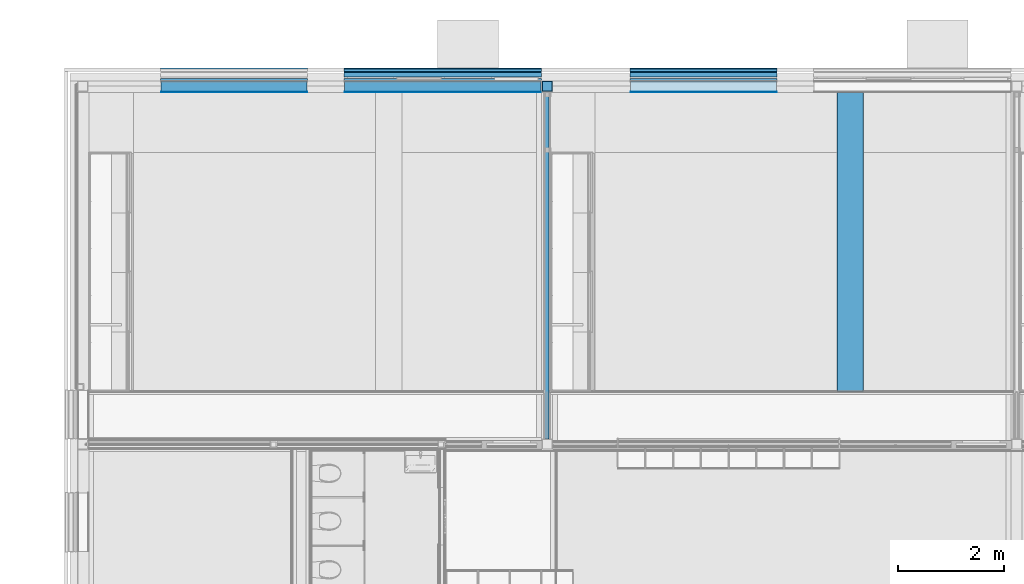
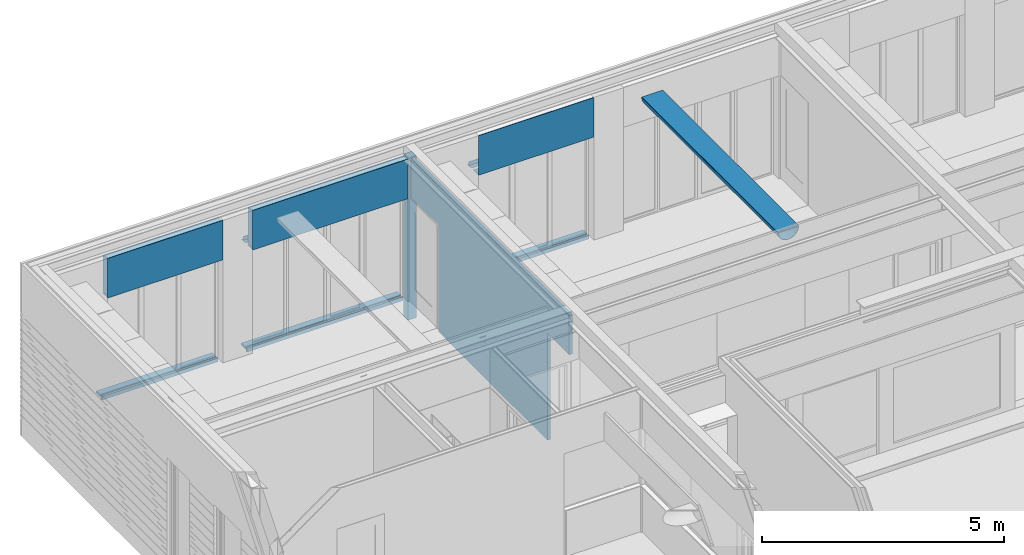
# One storey, part 83 of 165: 23 building element parts, 2 openings, 11 elements without a shape of their own.
"""IFC2X3 building model written with IfcOpenShell, lengths in millimetres."""

import ifcopenshell
import ifcopenshell.guid

model = None  # the IFC model being written
_history = None  # IfcOwnerHistory: only IFC2X3 demands one
_inside = {}  # id of a spatial element -> (the spatial element, [elements in it])
_under = {}  # id of a project, library or spatial element -> (it, [spatial elements below it])
_declared = {}  # id of a project -> (the project, [libraries it declares])
_typed = {}  # id of a type object -> (the type object, [elements of that type])
_made_of = {}  # id of a material, layer set ... -> (it, [elements and type objects made of it])


def new_model(schema):
    """Start an empty IFC model of exactly this schema.

    Asked for "IFC4X3", IfcOpenShell would pick the latest addendum, in which some entities
    have other attributes; the version numbers below select the first issue.
    IFC2X3 requires an IfcOwnerHistory on every rooted entity: one is made here for all.
    """
    global model, _history
    if schema == "IFC4X3":
        model = ifcopenshell.file(schema_version=(4, 3, 0, 0))
    else:
        model = ifcopenshell.file(schema=schema)
    _inside.clear()
    _under.clear()
    _declared.clear()
    _typed.clear()
    _made_of.clear()
    _history = None
    if model.schema == "IFC2X3":
        org = make("IfcOrganization", Name="unknown")
        user = make(
            "IfcPersonAndOrganization",
            ThePerson=make("IfcPerson", FamilyName="unknown"),
            TheOrganization=org,
        )
        app = make(
            "IfcApplication",
            ApplicationDeveloper=org,
            Version="unknown",
            ApplicationFullName="unknown",
            ApplicationIdentifier="unknown",
        )
        _history = make(
            "IfcOwnerHistory",
            OwningUser=user,
            OwningApplication=app,
            ChangeAction="ADDED",
            CreationDate=0,
        )
    return model


def make(cls, **values):
    """One entity of the class cls with the attributes given. An attribute that is None is left unset."""
    return model.create_entity(
        cls, **{name: value for name, value in values.items() if value is not None}
    )


def entity(cls, *values):
    """Any entity or typed value of the class cls, its attributes in the order of the schema. None: left unset."""
    e = model.create_entity(cls)
    for i, value in enumerate(values):
        if value is not None:
            e[i] = value
    return e


def rooted(cls, **values):
    """An entity with a GlobalId (a new one), such as an element, a storey or a relation."""
    return make(cls, GlobalId=ifcopenshell.guid.new(), OwnerHistory=_history, **values)


def si_unit(unit_type, name, prefix=None):
    """IfcSIUnit, for example si_unit("LENGTHUNIT", "METRE", prefix="MILLI")."""
    return make("IfcSIUnit", UnitType=unit_type, Prefix=prefix, Name=name)


def converted_unit(unit_type, name, factor, base, dimensions=None, offset=None):
    """IfcConversionBasedUnit, such as the inch: factor (a typed value) times the base unit."""
    return make(
        "IfcConversionBasedUnit"
        if offset is None
        else "IfcConversionBasedUnitWithOffset",
        ConversionOffset=offset,
        Dimensions=None
        if dimensions is None
        else entity("IfcDimensionalExponents", *dimensions),
        UnitType=unit_type,
        Name=name,
        ConversionFactor=make(
            "IfcMeasureWithUnit", ValueComponent=factor, UnitComponent=base
        ),
    )


def derived_unit(unit_type, elements):
    """IfcDerivedUnit: a product of units, each with its exponent."""
    return make(
        "IfcDerivedUnit",
        Elements=[
            make("IfcDerivedUnitElement", Unit=unit, Exponent=power)
            for unit, power in elements
        ],
        UnitType=unit_type,
    )


def money_unit(currency):
    """IfcMonetaryUnit."""
    return make("IfcMonetaryUnit", Currency=currency)


def assignment(units):
    """IfcUnitAssignment: the units of a project."""
    return None if units is None else make("IfcUnitAssignment", Units=units)


def point(xyz):
    """IfcCartesianPoint."""
    return None if xyz is None else make("IfcCartesianPoint", Coordinates=xyz)


def direction(xyz):
    """IfcDirection."""
    return None if xyz is None else make("IfcDirection", DirectionRatios=xyz)


def frame(location, z_axis=None, x_axis=None):
    """IfcAxis2Placement3D, a coordinate frame: its origin and axes. An axis left out is left unset."""
    return make(
        "IfcAxis2Placement3D",
        Location=point(location),
        Axis=direction(z_axis),
        RefDirection=direction(x_axis),
    )


def origin_with_axes():
    """The frame at (0, 0, 0) with the z axis (0, 0, 1) and the x axis (1, 0, 0) written out."""
    return frame((0.0, 0.0, 0.0), z_axis=(0.0, 0.0, 1.0), x_axis=(1.0, 0.0, 0.0))


def place(relative_to, where):
    """IfcLocalPlacement: puts the frame where relative to a parent placement (None: the world)."""
    return make(
        "IfcLocalPlacement", PlacementRelTo=relative_to, RelativePlacement=where
    )


def context(
    kind, dimensions, precision=None, world=None, true_north=None, identifier=None
):
    """IfcGeometricRepresentationContext, for example the 3D "Model" context."""
    return make(
        "IfcGeometricRepresentationContext",
        ContextIdentifier=identifier,
        ContextType=kind,
        CoordinateSpaceDimension=dimensions,
        Precision=precision,
        WorldCoordinateSystem=world,
        TrueNorth=true_north,
    )


def subcontext(parent, identifier, kind, view, scale=None):
    """IfcGeometricRepresentationSubContext, for example "Body" below "Model"."""
    return make(
        "IfcGeometricRepresentationSubContext",
        ContextIdentifier=identifier,
        ContextType=kind,
        ParentContext=parent,
        TargetScale=scale,
        TargetView=view,
    )


def project(units=None, contexts=None):
    """IfcProject with its units and contexts."""
    return rooted(
        "IfcProject",
        Name="project",
        RepresentationContexts=contexts,
        UnitsInContext=assignment(units),
    )


def spatial(cls, under=None, at=None, **own):
    """A site, building, storey or space (cls), placed at a placement, below another one or the project."""
    s = rooted(cls, ObjectPlacement=at, **own)
    if under is not None:
        _under.setdefault(under.id(), (under, []))[1].append(s)
    return s


def faces_of(points, faces, orient=None, outer=None):
    """IfcFace entities. A face is a list of loops; a loop is a list of indices into points, from 0.

    orient and outer hold one flag for each loop. By default every Orientation is true, the
    first loop of a face is its IfcFaceOuterBound and the others are IfcFaceBound.
    """
    made = []
    for i, loops in enumerate(faces):
        bounds = []
        for j, loop in enumerate(loops):
            is_outer = j == 0 if outer is None else outer[i][j]
            bounds.append(
                make(
                    "IfcFaceOuterBound" if is_outer else "IfcFaceBound",
                    Bound=make("IfcPolyLoop", Polygon=[points[k] for k in loop]),
                    Orientation=True if orient is None else orient[i][j],
                )
            )
        made.append(make("IfcFace", Bounds=bounds))
    return made


def faceted_brep(points, faces, orient=None, outer=None, voids=None):
    """IfcFacetedBrep: a solid bounded by flat faces; with voids (closed shells), ...WithVoids."""
    shared = [point(p) for p in points]
    hull = make("IfcClosedShell", CfsFaces=faces_of(shared, faces, orient, outer))
    if voids is None:
        return make("IfcFacetedBrep", Outer=hull)
    return make(
        "IfcFacetedBrepWithVoids",
        Outer=hull,
        Voids=[
            make(cls, CfsFaces=faces_of(shared, fs, o, b)) for cls, fs, o, b in voids
        ],
    )


def shape(context_of_items, identifier, shape_type, items):
    """IfcShapeRepresentation: the items that make up one representation, for example the "Body"."""
    return make(
        "IfcShapeRepresentation",
        ContextOfItems=context_of_items,
        RepresentationIdentifier=identifier,
        RepresentationType=shape_type,
        Items=items,
    )


def material(Name=None, Category=None):
    """IfcMaterial."""
    return make("IfcMaterial", Name=Name, Category=Category)


def made_of(thing, what):
    """Note that an element or type object is made of a material, layer set ...; save() writes the relation."""
    if what is not None:
        _made_of.setdefault(what.id(), (what, []))[1].append(thing)
    return thing


def type_object(cls, material=None, **own):
    """A type object (cls), such as IfcWallType, which elements share."""
    return made_of(rooted(cls, **own), material)


def element(
    cls,
    number,
    at=None,
    inside=None,
    cuts=None,
    type_object=None,
    material=None,
    context=None,
    identifier="Body",
    shape_type=None,
    held_by="IfcProductDefinitionShape",
    body=None,
    shapes=None,
    **own,
):
    """One element of the class cls, such as IfcWall. Its Tag is "e" and its number.

    at: its placement. inside: the storey or other place that contains it. cuts: it is an
    opening in that element (IfcRelVoidsElement). A single representation is given by context,
    identifier, shape_type and body (its items); several are given by shapes. held_by: the class
    of the entity that holds the representations. save() writes the other relations.
    """
    e = rooted(cls, Tag="e%d" % number, ObjectPlacement=at, **own)
    if body is not None:
        shapes = [shape(context, identifier, shape_type, body)]
    if shapes is not None:
        e.Representation = make(held_by, Representations=shapes)
    if inside is not None:
        _inside.setdefault(inside.id(), (inside, []))[1].append(e)
    if cuts is not None:
        rooted(
            "IfcRelVoidsElement", RelatingBuildingElement=cuts, RelatedOpeningElement=e
        )
    if type_object is not None:
        _typed.setdefault(type_object.id(), (type_object, []))[1].append(e)
    return made_of(e, material)


def aggregate(whole, parts):
    """IfcRelAggregates: a whole, such as a stair, and the parts it consists of."""
    return rooted("IfcRelAggregates", RelatingObject=whole, RelatedObjects=parts)


def save(model, path):
    """Write the relations noted so far, then the file.

    IfcRelAggregates (storeys below a building ...), IfcRelContainedInSpatialStructure (elements
    in a storey), IfcRelDefinesByType, IfcRelAssociatesMaterial and IfcRelDeclares: one each for
    every whole, place, type object, material and project.
    """
    for whole, parts in _under.values():
        aggregate(whole, parts)
    for where, things in _inside.values():
        rooted(
            "IfcRelContainedInSpatialStructure",
            RelatedElements=things,
            RelatingStructure=where,
        )
    for kind, things in _typed.values():
        rooted("IfcRelDefinesByType", RelatedObjects=things, RelatingType=kind)
    for what, things in _made_of.values():
        rooted("IfcRelAssociatesMaterial", RelatedObjects=things, RelatingMaterial=what)
    for by, libraries in _declared.values():
        rooted("IfcRelDeclares", RelatingContext=by, RelatedDefinitions=libraries)
    model.write(path)


model = new_model("IFC2X3")

# Units and contexts
model_context = context("Model", 3, precision=0.01, world=origin_with_axes(), true_north=direction((0.0, 1.0)))
body_context = subcontext(model_context, "Body", "Model", "MODEL_VIEW")
ifc_project = project(units=[si_unit("LENGTHUNIT", "METRE", prefix="MILLI"), si_unit("AREAUNIT", "SQUARE_METRE"), si_unit("VOLUMEUNIT", "CUBIC_METRE"), converted_unit("PLANEANGLEUNIT", "DEGREE", entity("IfcPlaneAngleMeasure", 0.0174532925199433), si_unit("PLANEANGLEUNIT", "RADIAN"), dimensions=[0, 0, 0, 0, 0, 0, 0]), money_unit("EUR"), converted_unit("TIMEUNIT", "Year", entity("IfcTimeMeasure", 31556926.0), si_unit("TIMEUNIT", "SECOND"), dimensions=[0, 0, 1, 0, 0, 0, 0]), si_unit("MASSUNIT", "GRAM", prefix="KILO"), si_unit("THERMODYNAMICTEMPERATUREUNIT", "DEGREE_CELSIUS"), si_unit("LUMINOUSINTENSITYUNIT", "LUMEN"), si_unit("ENERGYUNIT", "JOULE", prefix="MEGA"), derived_unit("THERMALCONDUCTANCEUNIT", [(si_unit("POWERUNIT", "WATT"), 1), (si_unit("LENGTHUNIT", "METRE"), -1), (si_unit("THERMODYNAMICTEMPERATUREUNIT", "KELVIN"), -1)]), derived_unit("SPECIFICHEATCAPACITYUNIT", [(si_unit("ENERGYUNIT", "JOULE"), 1), (si_unit("MASSUNIT", "GRAM", prefix="KILO"), -1), (si_unit("THERMODYNAMICTEMPERATUREUNIT", "KELVIN"), -1)]), derived_unit("MASSDENSITYUNIT", [(si_unit("MASSUNIT", "GRAM", prefix="KILO"), 1), (si_unit("VOLUMEUNIT", "CUBIC_METRE"), -1)])], contexts=[model_context])

# Site, building, storey
site_placement = place(None, origin_with_axes())
site = spatial("IfcSite", under=ifc_project, at=site_placement, Name="Site", CompositionType="ELEMENT")
building_placement = place(site_placement, origin_with_axes())
building = spatial("IfcBuilding", under=site, at=building_placement, Name="Naam gebouw", CompositionType="ELEMENT")
storey_placement = place(building_placement, origin_with_axes())
storey = spatial("IfcBuildingStorey", under=building, at=storey_placement, Name="Begane grond", CompositionType="ELEMENT", Elevation=0.0)

# Proxy, openings, building element part
building_element_proxy_type = type_object("IfcBuildingElementProxyType", Name="22 Metal stud 125 gips 125", PredefinedType="NOTDEFINED")
proxy_placement = place(storey_placement, frame((8850.000000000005, 29175.0, -100.0), z_axis=(0.0, 0.0, 1.0), x_axis=(0.0, -1.0, 0.0)))
proxy = element("IfcBuildingElementProxy", 1, at=proxy_placement, inside=storey, type_object=building_element_proxy_type, Name="_Wand-x")
opening_1_placement = place(proxy_placement, frame((6300.00015292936, 0.0, 100.0), z_axis=(0.0, 0.0, 1.0), x_axis=(1.0, 0.0, 0.0)))
element("IfcOpeningElement", 2, at=opening_1_placement, cuts=proxy, Name="_B.02", context=body_context, shape_type="Brep", body=[
    faceted_brep([(-449.9999999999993, 12.49999999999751, -100.0000000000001), (-449.9999999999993, 12.49999999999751, 2600.0), (-449.9999999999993, 63.49999999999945, 2600.0), (-449.9999999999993, 63.49999999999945, -100.0000000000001), (-449.9999999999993, -63.49999999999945, -100.0000000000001), (-449.9999999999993, -63.49999999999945, 2600.0), (449.9999999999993, 12.49999999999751, 2600.0), (449.9999999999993, 63.49999999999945, 2600.0), (449.9999999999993, -63.49999999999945, 2600.0), (449.9999999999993, 63.49999999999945, -100.0000000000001), (449.9999999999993, 12.49999999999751, -100.0000000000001), (449.9999999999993, -63.49999999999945, -100.0000000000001)], [[[0, 1, 2, 3]], [[1, 0, 4, 5]], [[6, 7, 2, 1, 5, 8]], [[7, 9, 3, 2]], [[0, 3, 9, 10, 11, 4]], [[5, 4, 11, 8]], [[6, 10, 9, 7]], [[10, 6, 8, 11]]]),
])
opening_2_placement = place(proxy_placement, frame((778.9999999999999, 0.0, 100.0), z_axis=(0.0, 0.0, 1.0), x_axis=(1.0, 0.0, 0.0)))
element("IfcOpeningElement", 3, at=opening_2_placement, cuts=proxy, Name="_01.01", context=body_context, shape_type="Brep", body=[
    faceted_brep([(565.0000000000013, 63.49999999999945, 2600.0), (565.0000000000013, 63.49999999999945, -100.0000000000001), (-565.0000000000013, 63.49999999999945, -100.0000000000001), (-565.0000000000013, 63.49999999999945, 2600.0), (565.0000000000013, -63.49999999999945, 2600.0), (565.0000000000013, -63.49999999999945, -100.0000000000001), (-565.0000000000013, -63.49999999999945, -100.0000000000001), (-565.0000000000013, -63.49999999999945, 2600.0)], [[[0, 1, 2, 3]], [[4, 5, 1, 0]], [[5, 6, 2, 1]], [[6, 7, 3, 2]], [[7, 4, 0, 3]], [[6, 5, 4, 7]]]),
])
ifc_material_1 = material(Name="ALG - LICHTE SCHEIDINGSWAND")
building_element_part_1_placement = place(proxy_placement, origin_with_axes())
building_element_part_1 = element("IfcBuildingElementPart", 4, at=building_element_part_1_placement, material=ifc_material_1, Name="ALG - LICHTE SCHEIDINGSWAND", context=body_context, shape_type="Brep", body=[
    faceted_brep([(1344.000000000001, 37.49999999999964, 0.0), (1344.000000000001, 37.49999999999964, 2700.0), (213.9999999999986, 37.49999999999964, 2700.0), (213.9999999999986, 37.49999999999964, 3670.000002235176), (6750.00015292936, 37.49999999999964, 3670.000002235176), (6750.00015292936, 37.49999999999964, 2700.0), (5850.000152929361, 37.49999999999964, 2700.0), (5850.000152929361, 37.49999999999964, 0.0), (1344.000000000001, -37.49999999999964, 0.0), (1344.000000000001, -37.50000000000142, 2700.0), (213.9999999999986, -37.49999999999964, 2700.0), (213.9999999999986, -37.49999999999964, 3670.000002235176), (6750.00015292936, -37.50000000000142, 3670.000002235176), (6750.00015292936, -37.50000000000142, 2700.0), (5850.000152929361, -37.50000000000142, 2700.0), (5850.000152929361, -37.50000000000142, 0.0)], [[[0, 1, 2, 3, 4, 5, 6, 7]], [[1, 0, 8, 9]], [[10, 2, 1, 9]], [[2, 10, 11, 3]], [[11, 12, 4, 3]], [[5, 4, 12, 13]], [[14, 6, 5, 13]], [[15, 7, 6, 14]], [[8, 0, 7, 15]], [[9, 8, 15, 14, 13, 12, 11, 10]]]),
    faceted_brep([(6750.00015292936, -37.50000000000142, 3699.999999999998), (6750.00015292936, 37.49999999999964, 3699.999999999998), (213.9999999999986, 37.49999999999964, 3700.0), (213.9999999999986, -37.49999999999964, 3700.0), (6750.00015292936, 37.49999999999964, 3695.000002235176), (6750.00015292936, -37.50000000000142, 3695.000002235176), (213.9999999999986, 37.49999999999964, 3695.000002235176), (213.9999999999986, -37.49999999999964, 3695.000002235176)], [[[0, 1, 2, 3]], [[4, 1, 0, 5]], [[1, 4, 6, 2]], [[2, 6, 7, 3]], [[5, 0, 3, 7]], [[4, 5, 7, 6]]]),
])
aggregate(proxy, [building_element_part_1])

# Column, building element parts
column_type = type_object("IfcColumnType", Name="200X200X10 200 x 200", PredefinedType="COLUMN")
column_placement = place(storey_placement, frame((8850.000000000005, 29075.0, -480.0), z_axis=(0.0, 0.0, 1.0), x_axis=(1.0, 0.0, 0.0)))
column = element("IfcColumn", 5, at=column_placement, inside=storey, type_object=column_type, Name="28_Kolom-x", ObjectType="COLUMN")
ifc_material_2 = material(Name="Beton gewapend C")
building_element_part_2_placement = place(column_placement, origin_with_axes())
building_element_part_2 = element("IfcBuildingElementPart", 6, at=building_element_part_2_placement, material=ifc_material_2, Name="Beton gewapend C", context=body_context, shape_type="Brep", body=[
    faceted_brep([(-89.99999999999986, 89.99999999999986, 4050.000002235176), (89.99999999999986, 89.99999999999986, 4050.000002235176), (89.99999999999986, 89.99999999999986, 0.0), (-89.99999999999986, 89.99999999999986, 0.0), (89.99999999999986, -89.99999999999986, 4050.000002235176), (-89.99999999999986, -89.99999999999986, 4050.000002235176), (89.99999999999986, -89.99999999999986, 0.0), (-89.99999999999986, -89.99999999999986, 0.0)], [[[0, 1, 2, 3]], [[4, 1, 0, 5]], [[1, 4, 6, 2]], [[2, 6, 7, 3]], [[5, 0, 3, 7]], [[4, 5, 7, 6]]]),
    faceted_brep([(89.99999999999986, -89.99999999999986, 4075.000002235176), (89.99999999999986, 89.99999999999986, 4075.000002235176), (89.99999999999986, 89.99999999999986, 4079.999999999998), (89.99999999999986, -89.99999999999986, 4079.999999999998), (-89.99999999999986, 89.99999999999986, 4075.000002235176), (-89.99999999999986, -89.99999999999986, 4075.000002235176), (-89.99999999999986, 89.99999999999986, 4079.999999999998), (-89.99999999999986, -89.99999999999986, 4079.999999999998)], [[[0, 1, 2, 3]], [[4, 1, 0, 5]], [[1, 4, 6, 2]], [[2, 6, 7, 3]], [[5, 0, 3, 7]], [[4, 5, 7, 6]]]),
])
ifc_material_3 = material(Name="Metaal - Staal C")
building_element_part_3_placement = place(column_placement, origin_with_axes())
building_element_part_3 = element("IfcBuildingElementPart", 7, at=building_element_part_3_placement, material=ifc_material_3, Name="Metaal - Staal C", context=body_context, shape_type="Brep", body=[
    faceted_brep([(-99.99999999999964, -100.0000000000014, 0.0), (99.99999999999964, -100.0000000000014, 0.0), (99.99999999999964, -100.0000000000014, 4079.999999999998), (-99.99999999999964, -100.0000000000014, 4079.999999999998), (-99.99999999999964, 100.0000000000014, 0.0), (99.99999999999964, 100.0000000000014, 0.0), (-89.99999999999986, -89.99999999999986, 0.0), (89.99999999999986, -89.99999999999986, 0.0), (89.99999999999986, 89.99999999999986, 0.0), (-89.99999999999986, 89.99999999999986, 0.0), (99.99999999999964, 100.0000000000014, 4079.999999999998), (-99.99999999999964, 100.0000000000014, 4079.999999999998), (-89.99999999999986, -89.99999999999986, 4079.999999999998), (-89.99999999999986, 89.99999999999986, 4079.999999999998), (89.99999999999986, 89.99999999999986, 4079.999999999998), (89.99999999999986, -89.99999999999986, 4079.999999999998)], [[[0, 1, 2, 3]], [[0, 4, 5, 1], [6, 7, 8, 9]], [[1, 5, 10, 2]], [[3, 2, 10, 11], [12, 13, 14, 15]], [[4, 0, 3, 11]], [[5, 4, 11, 10]], [[7, 6, 12, 15]], [[8, 7, 15, 14]], [[9, 8, 14, 13]], [[6, 9, 13, 12]]]),
])
aggregate(column, [building_element_part_2, building_element_part_3])

# Beam, building element parts
beam_type_1 = type_object("IfcBeamType", Name="41 Latei/geveldrager 158 x 112", PredefinedType="BEAM")
beam_1_placement = place(storey_placement, frame((10414.99942456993, 29355.00000286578, 2610.0), z_axis=(0.0, 0.0, 1.0), x_axis=(0.0, -1.0, 0.0)))
beam_1 = element("IfcBeam", 8, at=beam_1_placement, inside=storey, type_object=beam_type_1, Name="_Regenwaterafvoer-x", ObjectType="BEAM")
building_element_part_4_placement = place(beam_1_placement, origin_with_axes())
building_element_part_4 = element("IfcBuildingElementPart", 9, at=building_element_part_4_placement, material=ifc_material_3, Name="Metaal - Staal C", context=body_context, shape_type="Brep", body=[
    faceted_brep([(-50.00000000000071, 2770.000000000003, 6.55651533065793e-07), (-50.00000000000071, 2770.000000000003, -3.000000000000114), (-50.00000000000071, 0.0, -3.000000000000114), (-50.00000000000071, 0.0, 6.55651533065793e-07), (-5.9603877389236e-08, 2770.000000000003, 6.55651533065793e-07), (-5.9603877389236e-08, 2770.000000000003, 99.3417707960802), (16.54654975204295, 2770.000000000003, 108.894926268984), (18.04655007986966, 2770.000000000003, 106.296849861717), (3.000000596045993, 2770.000000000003, 96.99999988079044), (3.000000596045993, 2770.000000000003, 6.55651533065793e-07), (3.000000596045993, 2770.000000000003, -3.000000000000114), (3.000000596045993, 0.0, -3.000000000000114), (3.000000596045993, 0.0, 6.55651533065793e-07), (3.000000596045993, 0.0, 96.99999988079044), (18.04655007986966, 0.0, 106.296849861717), (16.54654975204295, 0.0, 108.894926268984), (-5.9603877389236e-08, 0.0, 99.3417707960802), (-5.9603877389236e-08, 0.0, 6.55651533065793e-07)], [[[0, 1, 2, 3]], [[0, 4, 5, 6, 7, 8, 9, 10, 1]], [[1, 10, 11, 2]], [[3, 2, 11, 12, 13, 14, 15, 16, 17]], [[4, 0, 3, 17]], [[5, 4, 17, 16]], [[6, 5, 16, 15]], [[7, 6, 15, 14]], [[8, 7, 14, 13]], [[9, 8, 13, 12]], [[10, 9, 12, 11]]]),
])
building_element_part_5_placement = place(beam_1_placement, origin_with_axes())
building_element_part_5 = element("IfcBuildingElementPart", 10, at=building_element_part_5_placement, material=ifc_material_3, Name="Metaal - Staal C", context=body_context, shape_type="Brep", body=[
    faceted_brep([(3.000000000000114, 2770.000000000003, -3.000000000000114), (108.0000000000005, 2770.000000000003, -3.000000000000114), (108.0000000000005, 0.0, -3.000000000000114), (3.000000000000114, 0.0, -3.000000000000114), (3.000000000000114, 2770.000000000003, 0.0), (108.0000000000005, 2770.000000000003, 0.0), (108.0000000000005, 0.0, 0.0), (3.000000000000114, 0.0, 0.0)], [[[0, 1, 2, 3]], [[0, 4, 5, 1]], [[1, 5, 6, 2]], [[3, 2, 6, 7]], [[4, 0, 3, 7]], [[5, 4, 7, 6]]]),
])
aggregate(beam_1, [building_element_part_4, building_element_part_5])

beam_type_2 = type_object("IfcBeamType", Name="31 Betondorpel 250 x 90", PredefinedType="BEAM")
beam_2_placement = place(storey_placement, frame((10414.99942456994, 29425.0, -100.0000000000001), z_axis=(0.0, 0.0, 1.0), x_axis=(0.0, -1.0, 0.0)))
beam_2 = element("IfcBeam", 11, at=beam_2_placement, inside=storey, type_object=beam_type_2, Name="_Regenwaterafvoer-x", ObjectType="BEAM")
ifc_material_4 = material(Name="Isolatie - Kunststof hard")
building_element_part_6_placement = place(beam_2_placement, origin_with_axes())
building_element_part_6 = element("IfcBuildingElementPart", 12, at=building_element_part_6_placement, material=ifc_material_4, Name="Isolatie - Kunststof hard", context=body_context, shape_type="Brep", body=[
    faceted_brep([(199.9999999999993, 2770.000000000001, 0.0), (250.0, 2770.000000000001, 0.0), (250.0, 0.0, 0.0), (199.9999999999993, 0.0, 0.0), (199.9999999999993, 2770.000000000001, 30.04212815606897), (199.9999999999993, 2770.000000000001, 90.00000000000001), (250.0, 2770.000000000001, 90.00000000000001), (250.0, 0.0, 90.00000000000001), (199.9999999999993, 0.0, 90.00000000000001), (199.9999999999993, 0.0, 30.04212815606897)], [[[0, 1, 2, 3]], [[0, 4, 5, 6, 1]], [[1, 6, 7, 2]], [[3, 2, 7, 8, 9]], [[4, 0, 3, 9]], [[5, 4, 9, 8]], [[6, 5, 8, 7]]]),
])
ifc_material_5 = material(Name="Beton gewapend prefab")
building_element_part_7_placement = place(beam_2_placement, origin_with_axes())
building_element_part_7 = element("IfcBuildingElementPart", 13, at=building_element_part_7_placement, material=ifc_material_5, Name="Beton gewapend prefab", context=body_context, shape_type="Brep", body=[
    faceted_brep([(0.0, 2770.000000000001, 30.04212834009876), (169.9999999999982, 2770.000000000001, 30.04212834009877), (170.0000000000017, 0.0, 30.04212834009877), (0.0, 0.0, 30.04212834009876), (0.0, 2770.000000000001, 80.04212834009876), (169.9999999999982, 2770.000000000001, 90.04212834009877), (169.9999999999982, 2770.000000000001, 90.00000000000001), (170.0000000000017, 0.0, 90.00000000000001), (170.0000000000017, 0.0, 90.04212834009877), (0.0, 0.0, 80.04212834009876)], [[[0, 1, 2, 3]], [[0, 4, 5, 6, 1]], [[1, 6, 7, 2]], [[3, 2, 7, 8, 9]], [[4, 0, 3, 9]], [[5, 4, 9, 8]], [[6, 5, 8, 7]]]),
])
aggregate(beam_2, [building_element_part_6, building_element_part_7])

beam_3_placement = place(storey_placement, frame((1565.000000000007, 29425.0, -100.0000000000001), z_axis=(0.0, 0.0, 1.0), x_axis=(0.0, -1.0, 0.0)))
beam_3 = element("IfcBeam", 14, at=beam_3_placement, inside=storey, type_object=beam_type_2, Name="_Regenwaterafvoer-x", ObjectType="BEAM")
building_element_part_8_placement = place(beam_3_placement, origin_with_axes())
building_element_part_8 = element("IfcBuildingElementPart", 15, at=building_element_part_8_placement, material=ifc_material_4, Name="Isolatie - Kunststof hard", context=body_context, shape_type="Brep", body=[
    faceted_brep([(199.9999999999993, 2770.0, 0.0), (250.0, 2770.0, 0.0), (250.0, 0.0, 0.0), (199.9999999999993, 0.0, 0.0), (199.9999999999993, 2770.0, 30.04212815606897), (199.9999999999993, 2770.0, 90.00000000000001), (250.0, 2770.0, 90.00000000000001), (250.0, 0.0, 90.00000000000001), (199.9999999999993, 0.0, 90.00000000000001), (199.9999999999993, 0.0, 30.04212815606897)], [[[0, 1, 2, 3]], [[0, 4, 5, 6, 1]], [[1, 6, 7, 2]], [[3, 2, 7, 8, 9]], [[4, 0, 3, 9]], [[5, 4, 9, 8]], [[6, 5, 8, 7]]]),
])
building_element_part_9_placement = place(beam_3_placement, origin_with_axes())
building_element_part_9 = element("IfcBuildingElementPart", 16, at=building_element_part_9_placement, material=ifc_material_5, Name="Beton gewapend prefab", context=body_context, shape_type="Brep", body=[
    faceted_brep([(0.0, 2770.0, 30.04212834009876), (169.9999999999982, 2770.0, 30.04212834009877), (170.0000000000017, 0.0, 30.04212834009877), (0.0, 0.0, 30.04212834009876), (0.0, 2770.0, 80.04212834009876), (169.9999999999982, 2770.0, 90.04212834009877), (169.9999999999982, 2770.0, 90.00000000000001), (170.0000000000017, 0.0, 90.00000000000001), (170.0000000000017, 0.0, 90.04212834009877), (0.0, 0.0, 80.04212834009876)], [[[0, 1, 2, 3]], [[0, 4, 5, 6, 1]], [[1, 6, 7, 2]], [[3, 2, 7, 8, 9]], [[4, 0, 3, 9]], [[5, 4, 9, 8]], [[6, 5, 8, 7]]]),
])
aggregate(beam_3, [building_element_part_8, building_element_part_9])

beam_4_placement = place(storey_placement, frame((5025.000000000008, 29355.0, 2610.0), z_axis=(0.0, 0.0, 1.0), x_axis=(0.0, -1.0, 0.0)))
beam_4 = element("IfcBeam", 17, at=beam_4_placement, inside=storey, type_object=beam_type_1, Name="_Regenwaterafvoer-x", ObjectType="BEAM")
building_element_part_10_placement = place(beam_4_placement, origin_with_axes())
building_element_part_10 = element("IfcBuildingElementPart", 18, at=building_element_part_10_placement, material=ifc_material_3, Name="Metaal - Staal C", context=body_context, shape_type="Brep", body=[
    faceted_brep([(3.000000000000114, 3720.0, -3.000000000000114), (108.0000000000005, 3720.0, -3.000000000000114), (108.0000000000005, 0.0, -3.000000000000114), (3.000000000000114, 0.0, -3.000000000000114), (3.000000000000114, 3720.0, 0.0), (108.0000000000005, 3720.0, 0.0), (108.0000000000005, 0.0, 0.0), (3.000000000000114, 0.0, 0.0)], [[[0, 1, 2, 3]], [[0, 4, 5, 1]], [[1, 5, 6, 2]], [[3, 2, 6, 7]], [[4, 0, 3, 7]], [[5, 4, 7, 6]]]),
])
building_element_part_11_placement = place(beam_4_placement, origin_with_axes())
building_element_part_11 = element("IfcBuildingElementPart", 19, at=building_element_part_11_placement, material=ifc_material_3, Name="Metaal - Staal C", context=body_context, shape_type="Brep", body=[
    faceted_brep([(-50.00000000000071, 3720.0, 6.55651533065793e-07), (-50.00000000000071, 3720.0, -3.000000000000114), (-50.00000000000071, 0.0, -3.000000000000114), (-50.00000000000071, 0.0, 6.55651533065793e-07), (-5.9603877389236e-08, 3720.0, 6.55651533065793e-07), (-5.9603877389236e-08, 3720.0, 99.3417707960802), (16.54654975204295, 3720.0, 108.894926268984), (18.04655007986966, 3720.0, 106.296849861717), (3.000000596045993, 3720.0, 96.99999988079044), (3.000000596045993, 3720.0, 6.55651533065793e-07), (3.000000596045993, 3720.0, -3.000000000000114), (3.000000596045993, 0.0, -3.000000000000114), (3.000000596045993, 0.0, 6.55651533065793e-07), (3.000000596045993, 0.0, 96.99999988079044), (18.04655007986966, 0.0, 106.296849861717), (16.54654975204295, 0.0, 108.894926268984), (-5.9603877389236e-08, 0.0, 99.3417707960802), (-5.9603877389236e-08, 0.0, 6.55651533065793e-07)], [[[0, 1, 2, 3]], [[0, 4, 5, 6, 7, 8, 9, 10, 1]], [[1, 10, 11, 2]], [[3, 2, 11, 12, 13, 14, 15, 16, 17]], [[4, 0, 3, 17]], [[5, 4, 17, 16]], [[6, 5, 16, 15]], [[7, 6, 15, 14]], [[8, 7, 14, 13]], [[9, 8, 13, 12]], [[10, 9, 12, 11]]]),
])
aggregate(beam_4, [building_element_part_10, building_element_part_11])

beam_5_placement = place(storey_placement, frame((5025.000000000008, 29425.0, -100.0000000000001), z_axis=(0.0, 0.0, 1.0), x_axis=(0.0, -1.0, 0.0)))
beam_5 = element("IfcBeam", 20, at=beam_5_placement, inside=storey, type_object=beam_type_2, Name="_Regenwaterafvoer-x", ObjectType="BEAM")
building_element_part_12_placement = place(beam_5_placement, origin_with_axes())
building_element_part_12 = element("IfcBuildingElementPart", 21, at=building_element_part_12_placement, material=ifc_material_4, Name="Isolatie - Kunststof hard", context=body_context, shape_type="Brep", body=[
    faceted_brep([(199.9999999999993, 3720.0, 0.0), (250.0, 3720.000000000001, 0.0), (250.0, 0.0, 0.0), (199.9999999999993, 0.0, 0.0), (199.9999999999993, 3720.0, 30.04212815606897), (199.9999999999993, 3720.0, 90.00000000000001), (250.0, 3720.000000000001, 90.00000000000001), (250.0, 0.0, 90.00000000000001), (199.9999999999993, 0.0, 90.00000000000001), (199.9999999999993, 0.0, 30.04212815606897)], [[[0, 1, 2, 3]], [[0, 4, 5, 6, 1]], [[1, 6, 7, 2]], [[3, 2, 7, 8, 9]], [[4, 0, 3, 9]], [[5, 4, 9, 8]], [[6, 5, 8, 7]]]),
])
building_element_part_13_placement = place(beam_5_placement, origin_with_axes())
building_element_part_13 = element("IfcBuildingElementPart", 22, at=building_element_part_13_placement, material=ifc_material_5, Name="Beton gewapend prefab", context=body_context, shape_type="Brep", body=[
    faceted_brep([(0.0, 3720.0, 30.04212834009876), (169.9999999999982, 3720.0, 30.04212834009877), (170.0000000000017, 0.0, 30.04212834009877), (0.0, 0.0, 30.04212834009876), (0.0, 3720.0, 80.04212834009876), (169.9999999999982, 3720.0, 90.04212834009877), (169.9999999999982, 3720.0, 90.00000000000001), (170.0000000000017, 0.0, 90.00000000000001), (170.0000000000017, 0.0, 90.04212834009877), (0.0, 0.0, 80.04212834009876)], [[[0, 1, 2, 3]], [[0, 4, 5, 6, 1]], [[1, 6, 7, 2]], [[3, 2, 7, 8, 9]], [[4, 0, 3, 9]], [[5, 4, 9, 8]], [[6, 5, 8, 7]]]),
])
aggregate(beam_5, [building_element_part_12, building_element_part_13])

beam_type_3 = type_object("IfcBeamType", Name="Luchtzakken 500mm 500 x 265", PredefinedType="BEAM")
beam_6_placement = place(storey_placement, frame((14562.50000000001, 28961.00000000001, 3200.0), z_axis=(0.0, 0.0, 1.0), x_axis=(-1.0, 0.0, 0.0)))
beam_6 = element("IfcBeam", 23, at=beam_6_placement, inside=storey, type_object=beam_type_3, Name="_Regenwaterafvoer-x", ObjectType="BEAM")
ifc_material_6 = material(Name="ALG - ALGEMEEN")
building_element_part_14_placement = place(beam_6_placement, origin_with_axes())
building_element_part_14 = element("IfcBuildingElementPart", 24, at=building_element_part_14_placement, material=ifc_material_6, Name="ALG - ALGEMEEN", context=body_context, shape_type="Brep", body=[
    faceted_brep([(-250.0, 5636.000152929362, 0.0), (-246.2019382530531, 5636.000152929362, -43.41204441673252), (-246.2019382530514, 0.0, -43.41204441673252), (-250.0, 0.0, 0.0), (-240.0000000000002, 5636.000152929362, 0.0), (-236.3538607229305, 5636.000152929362, -41.67556264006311), (-225.5262289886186, 5636.000152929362, -82.08483439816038), (-207.8460969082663, 5636.000152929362, -120.0000000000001), (-183.8506663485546, 5636.000152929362, -154.2690263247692), (-154.269026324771, 5636.000152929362, -183.8506663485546), (-120.000000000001, 5636.000152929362, -207.8460969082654), (-82.08483439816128, 5636.000152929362, -225.5262289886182), (-41.675562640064, 5636.000152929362, -236.3538607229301), (0.0, 5636.000152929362, -240.0000000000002), (41.67556264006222, 5636.000152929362, -236.3538607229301), (82.0848343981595, 5636.000152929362, -225.5262289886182), (119.9999999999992, 5636.000152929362, -207.8460969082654), (154.2690263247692, 5636.000152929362, -183.8506663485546), (183.8506663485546, 5636.000152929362, -154.2690263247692), (207.8460969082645, 5636.000152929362, -120.0000000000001), (225.5262289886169, 5636.000152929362, -82.08483439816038), (236.3538607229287, 5636.000152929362, -41.67556264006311), (240.0000000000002, 5636.000152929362, 0.0), (250.0, 5636.000152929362, 0.0), (246.2019382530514, 5636.000152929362, -43.41204441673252), (234.9231551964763, 5636.000152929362, -85.50503583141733), (216.5063509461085, 5636.000152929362, -125.0), (191.5111107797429, 5636.000152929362, -160.6969024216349), (160.696902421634, 5636.000152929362, -191.5111107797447), (125.0, 5636.000152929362, -216.5063509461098), (85.50503583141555, 5636.000152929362, -234.9231551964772), (43.41204441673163, 5636.000152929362, -246.2019382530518), (0.0, 5636.000152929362, -250.0), (-43.41204441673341, 5636.000152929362, -246.2019382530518), (-85.50503583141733, 5636.000152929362, -234.9231551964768), (-125.0, 5636.000152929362, -216.5063509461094), (-160.6969024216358, 5636.000152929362, -191.5111107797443), (-191.5111107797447, 5636.000152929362, -160.6969024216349), (-216.5063509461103, 5636.000152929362, -125.0), (-234.9231551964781, 5636.000152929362, -85.50503583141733), (-234.9231551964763, 0.0, -85.50503583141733), (-216.5063509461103, 0.0, -125.0), (-191.5111107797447, 0.0, -160.6969024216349), (-160.696902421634, 0.0, -191.5111107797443), (-125.0, 0.0, -216.5063509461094), (-85.50503583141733, 0.0, -234.9231551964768), (-43.41204441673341, 0.0, -246.2019382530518), (0.0, 0.0, -250.0), (43.41204441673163, 0.0, -246.2019382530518), (85.50503583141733, 0.0, -234.9231551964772), (125.0, 0.0, -216.5063509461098), (160.696902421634, 0.0, -191.5111107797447), (191.5111107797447, 0.0, -160.6969024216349), (216.5063509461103, 0.0, -125.0), (234.9231551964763, 0.0, -85.50503583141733), (246.2019382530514, 0.0, -43.41204441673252), (250.0, 0.0, 0.0), (240.0000000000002, 0.0, 0.0), (236.3538607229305, 0.0, -41.67556264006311), (225.5262289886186, 0.0, -82.08483439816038), (207.8460969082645, 0.0, -120.0000000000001), (183.8506663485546, 0.0, -154.2690263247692), (154.2690263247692, 0.0, -183.8506663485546), (119.9999999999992, 0.0, -207.8460969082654), (82.08483439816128, 0.0, -225.5262289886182), (41.675562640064, 0.0, -236.3538607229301), (0.0, 0.0, -240.0000000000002), (-41.675562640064, 0.0, -236.3538607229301), (-82.08483439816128, 0.0, -225.5262289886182), (-119.9999999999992, 0.0, -207.8460969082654), (-154.2690263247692, 0.0, -183.8506663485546), (-183.8506663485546, 0.0, -154.2690263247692), (-207.8460969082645, 0.0, -120.0000000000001), (-225.5262289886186, 0.0, -82.08483439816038), (-236.3538607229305, 0.0, -41.67556264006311), (-240.0000000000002, 0.0, 0.0)], [[[0, 1, 2, 3]], [[0, 4, 5, 6, 7, 8, 9, 10, 11, 12, 13, 14, 15, 16, 17, 18, 19, 20, 21, 22, 23, 24, 25, 26, 27, 28, 29, 30, 31, 32, 33, 34, 35, 36, 37, 38, 39, 1]], [[1, 39, 40, 2]], [[3, 2, 40, 41, 42, 43, 44, 45, 46, 47, 48, 49, 50, 51, 52, 53, 54, 55, 56, 57, 58, 59, 60, 61, 62, 63, 64, 65, 66, 67, 68, 69, 70, 71, 72, 73, 74, 75]], [[4, 0, 3, 75]], [[5, 4, 75, 74]], [[6, 5, 74, 73]], [[7, 6, 73, 72]], [[8, 7, 72, 71]], [[9, 8, 71, 70]], [[10, 9, 70, 69]], [[11, 10, 69, 68]], [[12, 11, 68, 67]], [[13, 12, 67, 66]], [[14, 13, 66, 65]], [[15, 14, 65, 64]], [[16, 15, 64, 63]], [[17, 16, 63, 62]], [[18, 17, 62, 61]], [[19, 18, 61, 60]], [[20, 19, 60, 59]], [[21, 20, 59, 58]], [[22, 21, 58, 57]], [[23, 22, 57, 56]], [[24, 23, 56, 55]], [[25, 24, 55, 54]], [[26, 25, 54, 53]], [[27, 26, 53, 52]], [[28, 27, 52, 51]], [[29, 28, 51, 50]], [[30, 29, 50, 49]], [[31, 30, 49, 48]], [[32, 31, 48, 47]], [[33, 32, 47, 46]], [[34, 33, 46, 45]], [[35, 34, 45, 44]], [[36, 35, 44, 43]], [[37, 36, 43, 42]], [[38, 37, 42, 41]], [[39, 38, 41, 40]]]),
])
building_element_part_15_placement = place(beam_6_placement, origin_with_axes())
building_element_part_15 = element("IfcBuildingElementPart", 25, at=building_element_part_15_placement, material=ifc_material_6, Name="ALG - ALGEMEEN", context=body_context, shape_type="Brep", body=[
    faceted_brep([(250.0, 5636.000152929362, 0.0), (250.0, 5636.000152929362, 15.00000000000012), (250.0, 0.0, 15.00000000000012), (250.0, 0.0, 0.0), (240.0000000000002, 5636.000152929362, 0.0), (-240.0000000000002, 5636.000152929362, 0.0), (-250.0, 5636.000152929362, 0.0), (-250.0, 5636.000152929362, 15.00000000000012), (-250.0, 0.0, 15.00000000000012), (-250.0, 0.0, 0.0), (-240.0000000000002, 0.0, 0.0), (240.0000000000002, 0.0, 0.0)], [[[0, 1, 2, 3]], [[0, 4, 5, 6, 7, 1]], [[1, 7, 8, 2]], [[3, 2, 8, 9, 10, 11]], [[4, 0, 3, 11]], [[5, 4, 11, 10]], [[6, 5, 10, 9]], [[7, 6, 9, 8]]]),
])
aggregate(beam_6, [building_element_part_14, building_element_part_15])

beam_type_4 = type_object("IfcBeamType", Name="31 HSB boven kozijnen 214 x 1000", PredefinedType="BEAM")
beam_7_placement = place(storey_placement, frame((10424.99942456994, 28961.0, 2600.000000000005), z_axis=(0.0, 0.0, 1.0), x_axis=(0.0, -1.0, 0.0)))
beam_7 = element("IfcBeam", 26, at=beam_7_placement, inside=storey, type_object=beam_type_4, Name="28_Balk-x", ObjectType="BEAM")
ifc_material_7 = material(Name="Gipsplaat")
building_element_part_16_placement = place(beam_7_placement, origin_with_axes())
building_element_part_16 = element("IfcBuildingElementPart", 27, at=building_element_part_16_placement, material=ifc_material_7, Name="Gipsplaat", context=body_context, shape_type="Brep", body=[
    faceted_brep([(-11.99999661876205, 2750.000000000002, 0.0), (9.341707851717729e-06, 2750.000000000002, 0.0), (9.341711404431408e-06, 0.0, 0.0), (-11.99999661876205, 0.0, 0.0), (-11.99999661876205, 2750.000000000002, 999.9999999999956), (9.341707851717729e-06, 2750.000000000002, 999.9999999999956), (9.341707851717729e-06, 0.0, 999.9999999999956), (-11.99999661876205, 0.0, 999.9999999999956)], [[[0, 1, 2, 3]], [[0, 4, 5, 1]], [[1, 5, 6, 2]], [[3, 2, 6, 7]], [[4, 0, 3, 7]], [[5, 4, 7, 6]]]),
])
building_element_part_17_placement = place(beam_7_placement, origin_with_axes())
building_element_part_17 = element("IfcBuildingElementPart", 28, at=building_element_part_17_placement, material=ifc_material_7, Name="Gipsplaat", context=body_context, shape_type="Brep", body=[
    faceted_brep([(-214.0000025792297, 2750.000000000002, 12.00000596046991), (-214.0000025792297, 2750.000000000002, 0.0), (-214.0000025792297, 0.0, 0.0), (-214.0000025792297, 0.0, 12.00000596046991), (-11.99999661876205, 2750.000000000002, 12.00000596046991), (-11.99999661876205, 2750.000000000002, 0.0), (-11.99999661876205, 0.0, 0.0), (-11.99999661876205, 0.0, 12.00000596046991)], [[[0, 1, 2, 3]], [[0, 4, 5, 1]], [[1, 5, 6, 2]], [[3, 2, 6, 7]], [[4, 0, 3, 7]], [[5, 4, 7, 6]]]),
])
aggregate(beam_7, [building_element_part_16, building_element_part_17])

beam_8_placement = place(storey_placement, frame((5035.000000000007, 28961.0, 2600.000000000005), z_axis=(0.0, 0.0, 1.0), x_axis=(0.0, -1.0, 0.0)))
beam_8 = element("IfcBeam", 29, at=beam_8_placement, inside=storey, type_object=beam_type_4, Name="28_Balk-x", ObjectType="BEAM")
building_element_part_18_placement = place(beam_8_placement, origin_with_axes())
building_element_part_18 = element("IfcBuildingElementPart", 30, at=building_element_part_18_placement, material=ifc_material_7, Name="Gipsplaat", context=body_context, shape_type="Brep", body=[
    faceted_brep([(-11.99999661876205, 3700.000000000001, 0.0), (9.341707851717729e-06, 3700.000000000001, 0.0), (9.341711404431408e-06, 0.0, 0.0), (-11.99999661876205, 0.0, 0.0), (-11.99999661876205, 3700.000000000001, 999.9999999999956), (9.341707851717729e-06, 3700.000000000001, 999.9999999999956), (9.341707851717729e-06, 0.0, 999.9999999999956), (-11.99999661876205, 0.0, 999.9999999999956)], [[[0, 1, 2, 3]], [[0, 4, 5, 1]], [[1, 5, 6, 2]], [[3, 2, 6, 7]], [[4, 0, 3, 7]], [[5, 4, 7, 6]]]),
])
building_element_part_19_placement = place(beam_8_placement, origin_with_axes())
building_element_part_19 = element("IfcBuildingElementPart", 31, at=building_element_part_19_placement, material=ifc_material_7, Name="Gipsplaat", context=body_context, shape_type="Brep", body=[
    faceted_brep([(-214.0000025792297, 3700.000000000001, 12.00000596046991), (-214.0000025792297, 3700.000000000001, 0.0), (-214.0000025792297, 0.0, 0.0), (-214.0000025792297, 0.0, 12.00000596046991), (-11.99999661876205, 3700.000000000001, 12.00000596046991), (-11.99999661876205, 3700.000000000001, 0.0), (-11.99999661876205, 0.0, 0.0), (-11.99999661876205, 0.0, 12.00000596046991)], [[[0, 1, 2, 3]], [[0, 4, 5, 1]], [[1, 5, 6, 2]], [[3, 2, 6, 7]], [[4, 0, 3, 7]], [[5, 4, 7, 6]]]),
])
ifc_material_8 = material(Name="ALG - ISOLATIE")
building_element_part_20_placement = place(beam_8_placement, origin_with_axes())
building_element_part_20 = element("IfcBuildingElementPart", 32, at=building_element_part_20_placement, material=ifc_material_8, Name="ALG - ISOLATIE", context=body_context, shape_type="Brep", body=[
    faceted_brep([(-12.00000000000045, 3700.000000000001, 49.99999999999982), (-12.00000000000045, 3700.000000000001, 961.9999999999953), (-12.00000000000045, 0.0, 961.9999999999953), (-12.00000000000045, 0.0, 49.99999999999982), (-196.0000000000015, 3700.000000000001, 49.99999999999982), (-196.0000000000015, 3700.000000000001, 961.9999999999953), (-196.0000000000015, 0.0, 961.9999999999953), (-195.999999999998, 0.0, 49.99999999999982)], [[[0, 1, 2, 3]], [[0, 4, 5, 1]], [[1, 5, 6, 2]], [[3, 2, 6, 7]], [[4, 0, 3, 7]], [[5, 4, 7, 6]]]),
])
aggregate(beam_8, [building_element_part_18, building_element_part_19, building_element_part_20])

beam_9_placement = place(storey_placement, frame((1575.000000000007, 28961.0, 2600.000000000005), z_axis=(0.0, 0.0, 1.0), x_axis=(0.0, -1.0, 0.0)))
beam_9 = element("IfcBeam", 33, at=beam_9_placement, inside=storey, type_object=beam_type_4, Name="28_Balk-x", ObjectType="BEAM")
building_element_part_21_placement = place(beam_9_placement, origin_with_axes())
building_element_part_21 = element("IfcBuildingElementPart", 34, at=building_element_part_21_placement, material=ifc_material_8, Name="ALG - ISOLATIE", context=body_context, shape_type="Brep", body=[
    faceted_brep([(-12.00000000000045, 2750.000000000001, 49.99999999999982), (-12.00000000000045, 2750.000000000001, 961.9999999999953), (-12.00000000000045, 0.0, 961.9999999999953), (-12.00000000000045, 0.0, 49.99999999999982), (-196.0000000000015, 2750.000000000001, 49.99999999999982), (-196.0000000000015, 2750.000000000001, 961.9999999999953), (-196.0000000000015, 0.0, 961.9999999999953), (-195.999999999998, 0.0, 49.99999999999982)], [[[0, 1, 2, 3]], [[0, 4, 5, 1]], [[1, 5, 6, 2]], [[3, 2, 6, 7]], [[4, 0, 3, 7]], [[5, 4, 7, 6]]]),
])
building_element_part_22_placement = place(beam_9_placement, origin_with_axes())
building_element_part_22 = element("IfcBuildingElementPart", 35, at=building_element_part_22_placement, material=ifc_material_7, Name="Gipsplaat", context=body_context, shape_type="Brep", body=[
    faceted_brep([(-214.0000025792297, 2750.000000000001, 12.00000596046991), (-214.0000025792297, 2750.000000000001, 0.0), (-214.0000025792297, 0.0, 0.0), (-214.0000025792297, 0.0, 12.00000596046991), (-11.99999661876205, 2750.000000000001, 12.00000596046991), (-11.99999661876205, 2750.000000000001, 0.0), (-11.99999661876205, 0.0, 0.0), (-11.99999661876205, 0.0, 12.00000596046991)], [[[0, 1, 2, 3]], [[0, 4, 5, 1]], [[1, 5, 6, 2]], [[3, 2, 6, 7]], [[4, 0, 3, 7]], [[5, 4, 7, 6]]]),
])
building_element_part_23_placement = place(beam_9_placement, origin_with_axes())
building_element_part_23 = element("IfcBuildingElementPart", 36, at=building_element_part_23_placement, material=ifc_material_7, Name="Gipsplaat", context=body_context, shape_type="Brep", body=[
    faceted_brep([(-11.99999661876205, 2750.000000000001, 0.0), (9.341707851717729e-06, 2750.000000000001, 0.0), (9.341711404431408e-06, 0.0, 0.0), (-11.99999661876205, 0.0, 0.0), (-11.99999661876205, 2750.000000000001, 999.9999999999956), (9.341707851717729e-06, 2750.000000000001, 999.9999999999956), (9.341707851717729e-06, 0.0, 999.9999999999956), (-11.99999661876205, 0.0, 999.9999999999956)], [[[0, 1, 2, 3]], [[0, 4, 5, 1]], [[1, 5, 6, 2]], [[3, 2, 6, 7]], [[4, 0, 3, 7]], [[5, 4, 7, 6]]]),
])
aggregate(beam_9, [building_element_part_21, building_element_part_22, building_element_part_23])

save(model, "model.ifc")
